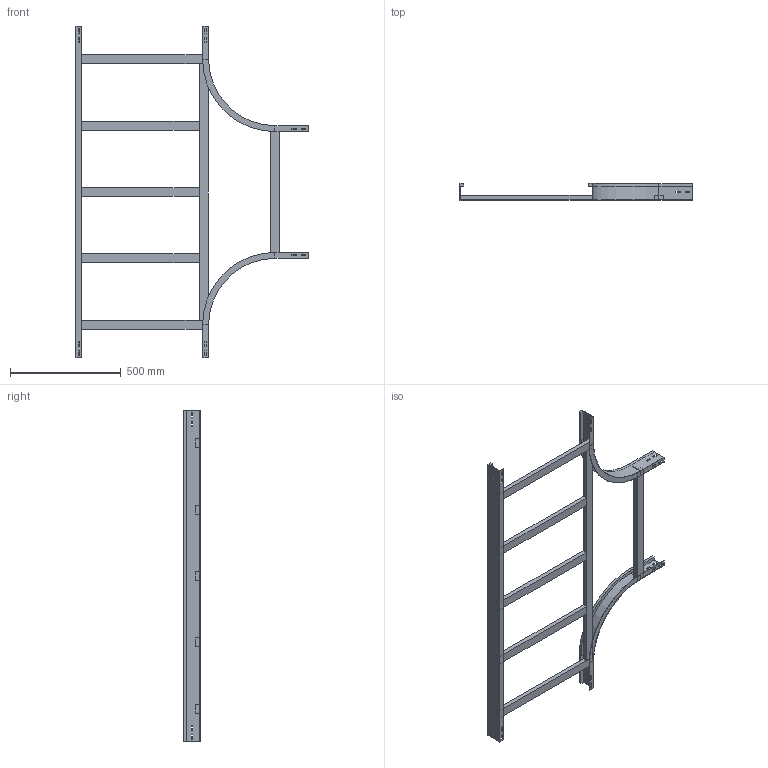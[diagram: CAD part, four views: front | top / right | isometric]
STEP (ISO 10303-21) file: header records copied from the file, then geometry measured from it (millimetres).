
FILE_DESCRIPTION (( 'STEP AP214' ), '1' );
FILE_NAME ('A2_15B3C600.step', '2025-02-21T15:53:19', ( '' ), ( '' ), 'SwSTEP 2.0', 'SolidWorks 2023', '' );
FILE_SCHEMA (( 'AUTOMOTIVE_DESIGN' ));
Length unit declared in the file: millimetre
Products named in the file (6): A2_15B3C600; A2_TRAVERSINO_LONG._R300+600; A2_LONGH.RETT_H75_R300+600; A2_LONGH.INTERNO 90°_H75_R300; TRAVERSINO_600; TRAVERSINO_INTERMEDIO_R300+600
Assembly tree (10 placements, depth 2):
  A2_15B3C600
    A2_LONGH.INTERNO 90°_H75_R300  x2
    A2_LONGH.RETT_H75_R300+600
    TRAVERSINO_600  x3
    A2_TRAVERSINO_LONG._R300+600
    TRAVERSINO_INTERMEDIO_R300+600  x3
Bounding box: 1050 x 75 x 1500 mm (x, y, z)
Volume: 4931380 mm3; surface area: 1289929.8 mm2
Topology: 10 solids, 10 shells, 200 faces, 508 edges, 328 vertices
Faces by surface type: plane 192, cylinder 8
Entity records: 3823 total; most frequent: CARTESIAN_POINT 639, ORIENTED_EDGE 616, DIRECTION 578, EDGE_CURVE 308, VECTOR 300, LINE 300, VERTEX_POINT 200, EDGE_LOOP 150
